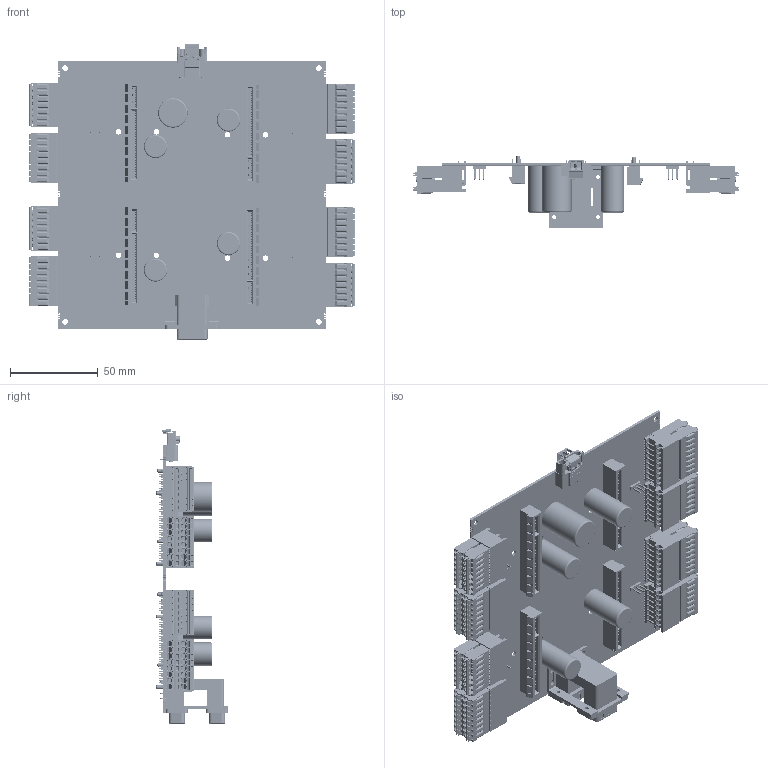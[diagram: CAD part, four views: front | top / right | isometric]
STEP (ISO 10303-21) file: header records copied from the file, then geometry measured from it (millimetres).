
FILE_DESCRIPTION((''),'2;1');
FILE_NAME('PCA-B100482_REV_B1_MULTI_AXIS_B_ASM','2017-09-12T11:17:40',('mulloa'),(''),'CREO PARAMETRIC BY PTC INC, 2016390','CREO PARAMETRIC BY PTC INC, 2016390','');
FILE_SCHEMA(('CONFIG_CONTROL_DESIGN'));
Length unit declared in the file: inch
Products named in the file (35): PHOENIX_1738856_PART1_-1; PHOENIX_1738856_PART1_-2; PHOENIX_1738856_PART1__ASM; PHOENIX_1738869_PART1_; PRODUCT_82001_ASM; PRODUCT_82038_ASM; PRODUCT_82075_ASM; DINKLE_EC350VM-B3081302P__PLUG_; 877159206_PART1_; PHOENIX_1953774_16_POS_HEADER_P; PHOENIX_1953761_14_POS_HEADER_P; DINKLE_ECH350RM-02P__RA_-3021_1; DINKLE_ECH350RM-02P__RA_-3021_2; DINKLE_ECH350RM-02P__RA_-302125_ASM; DINKLE_ECH350RM-02P__RA_-308824; DINKLE_ECH350RM-02P__RA_-308878; DINKLE_ECH350RM-02P__RA_-308908_ASM; 179-009-613_PART1_; B100482B_LMM_MULTI_AXIX_-329722; B100482B_LMM_MULTI_AXIX_-401467; B100482B_LMM_MULTI_AXIX_-401490_ASM; L-PCA-ID_PCA_LABEL_PART1_; PRODUCT_401821_ASM; PRODUCT_455560_1; PRODUCT_455560_2; PRODUCT_455560_3; PRODUCT_455560_4; PRODUCT_455560_5; PRODUCT_455560_6; PRODUCT_455560_7; PRODUCT_455560_8; PRODUCT_455560_9; PRODUCT_455560_ASM; PRODUCT_455590; PCA-B100482_REV_B1_MULTI_AXIS_B_ASM
Assembly tree (52 placements, depth 5):
  PCA-B100482_REV_B1_MULTI_AXIS_B_ASM
    PRODUCT_401821_ASM
      PHOENIX_1738856_PART1__ASM
        PHOENIX_1738856_PART1_-1
        PHOENIX_1738856_PART1_-2
      PHOENIX_1738869_PART1_  x4
      PRODUCT_82001_ASM
        PHOENIX_1738856_PART1_-1
        PHOENIX_1738856_PART1_-2
      PRODUCT_82038_ASM
        PHOENIX_1738856_PART1_-1
        PHOENIX_1738856_PART1_-2
      PRODUCT_82075_ASM
        PHOENIX_1738856_PART1_-1
        PHOENIX_1738856_PART1_-2
      DINKLE_EC350VM-B3081302P__PLUG_
      877159206_PART1_  x4
      PHOENIX_1953774_16_POS_HEADER_P  x4
      PHOENIX_1953761_14_POS_HEADER_P  x4
      DINKLE_ECH350RM-02P__RA_-308908_ASM
        DINKLE_ECH350RM-02P__RA_-302125_ASM
          DINKLE_ECH350RM-02P__RA_-3021_1
          DINKLE_ECH350RM-02P__RA_-3021_2
        DINKLE_ECH350RM-02P__RA_-308824
        DINKLE_ECH350RM-02P__RA_-308878
      179-009-613_PART1_
      B100482B_LMM_MULTI_AXIX_-401490_ASM
        B100482B_LMM_MULTI_AXIX_-329722
        B100482B_LMM_MULTI_AXIX_-401467
      L-PCA-ID_PCA_LABEL_PART1_
    PRODUCT_455560_ASM
      PRODUCT_455560_1
      PRODUCT_455560_2
      PRODUCT_455560_3
      PRODUCT_455560_4
      PRODUCT_455560_5
      PRODUCT_455560_6
      PRODUCT_455560_7
      PRODUCT_455560_8
      PRODUCT_455560_9
    PRODUCT_455590
Bounding box: 185.8 x 41.05 x 168.35 mm (x, y, z)
Volume: 81948.2 mm3; surface area: 164404.8 mm2
Topology: 74 solids, 9090 shells, 26497 faces, 97541 edges, 80818 vertices
Faces by surface type: plane 18305, cylinder 7227, cone 582, bspline 162, torus 144, extrusion 77
Entity records: 354608 total; most frequent: CARTESIAN_POINT 98164, ORIENTED_EDGE 48768, DIRECTION 46339, EDGE_CURVE 30989, VERTEX_POINT 24802, VECTOR 22739, LINE 22671, AXIS2_PLACEMENT_3D 11800
